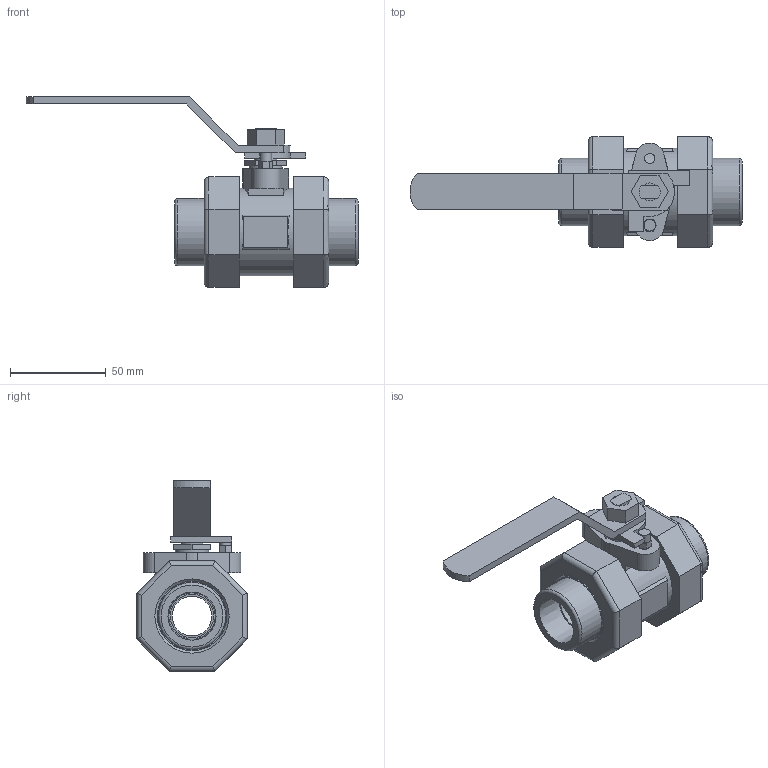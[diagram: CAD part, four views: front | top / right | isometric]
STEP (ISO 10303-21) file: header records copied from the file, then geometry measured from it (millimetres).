
FILE_DESCRIPTION((' '),'2;1');
FILE_NAME('N:\Technical Support\Private\Jomar Valve CAD\Ball Valves\CS and SS\2002N-DUE\.75 T-CS[SS]-2002N-DUE (100-994 [100-984])FusionCopy.stp.step','2017-01-24T13:03:57',(' '),(' '),' ','ACIS',' ');
FILE_SCHEMA(('CONFIG_CONTROL_DESIGN'));
Length unit declared in the file: inch
Products named in the file (15): N:\Technical Support\Private\Jomar Valve CAD\Ball Valves\CS and SS\2002N-DUE\.75 T-CS[SS]-2002N-DUE (100-994 [100-984])FusionCopy.stp.step; Body1; Body2; Body3; Body4; Body5; Body6; Body7; Body8; Body9; Body10; Body11; Body12; Body13; Body14
Assembly tree (14 placements, depth 2):
  N:\Technical Support\Private\Jomar Valve CAD\Ball Valves\CS and SS\2002N-DUE\.75 T-CS[SS]-2002N-DUE (100-994 [100-984])FusionCopy.stp.step
    Body1
    Body2
    Body3
    Body4
    Body5
    Body6
    Body7
    Body8
    Body9
    Body10
    Body11
    Body12
    Body13
    Body14
Bounding box: 173.29 x 57.66 x 99.49 mm (x, y, z)
Volume: 162589.9 mm3; surface area: 61843.5 mm2
Topology: 14 solids, 14 shells, 188 faces, 411 edges, 266 vertices
Faces by surface type: plane 97, bspline 48, cylinder 40, cone 2, torus 1
Full cylindrical faces by diameter (mm): 5.334 x2, 6.02 x1, 6.223 x1, 9.271 x1, 11.938 x1, 17.399 x1, 20.701 x2, 22.733 x1, 29.083 x1, 35.052 x1, 35.306 x1, 35.941 x1, 36.195 x1, 38.1 x1, 41.91 x1, 45.847 x1, 47.117 x1, 48.971 x1
Entity records: 7379 total; most frequent: CARTESIAN_POINT 1315, DIRECTION 825, ORIENTED_EDGE 732, EDGE_CURVE 366, AXIS2_PLACEMENT_3D 292, EDGE_LOOP 265, VERTEX_POINT 257, VECTOR 241
